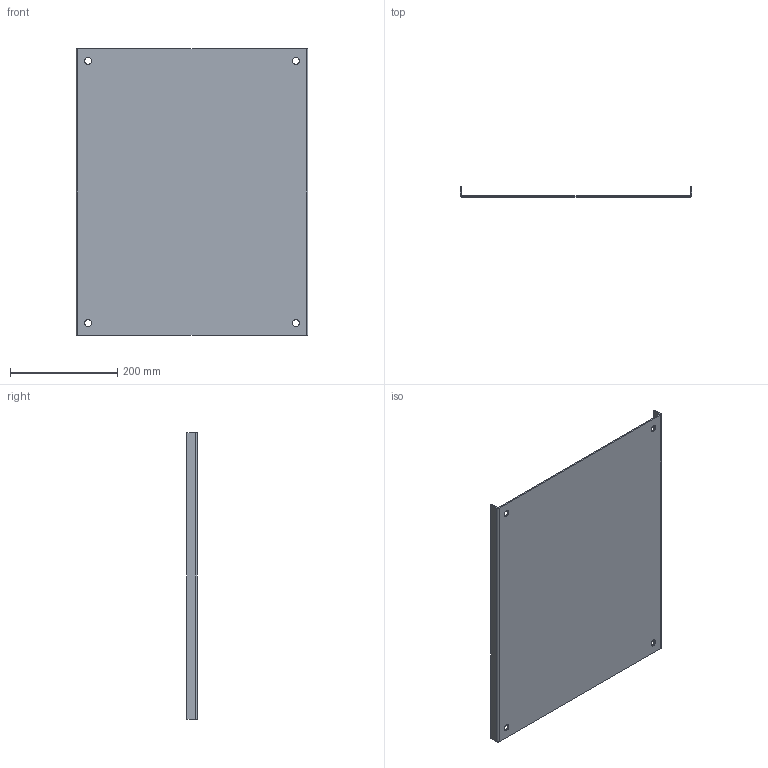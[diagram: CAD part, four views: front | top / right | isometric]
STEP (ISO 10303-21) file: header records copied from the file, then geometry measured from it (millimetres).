
FILE_DESCRIPTION(/* description */ ('Unknown'),/* implementation_level */ '2;1');
FILE_NAME(/* name */ '18P2117',/* time_stamp */ '2020-02-07T10:48:03-05:00',/* author */ ('Unknown'),/* organization */ ('Unknown'),/* preprocessor_version */ 'ST-DEVELOPER v16.7',/* originating_system */ 'DEX',/* authorisation */ $);
FILE_SCHEMA (('AUTOMOTIVE_DESIGN {1 0 10303 214 3 1 1}'));
Length unit declared in the file: millimetre
Products named in the file (2): 18P2117; COM40674
Assembly tree (1 placements, depth 2):
  18P2117
    COM40674
Bounding box: 431.8 x 19.05 x 533.4 mm (x, y, z)
Volume: 595196.5 mm3; surface area: 498520.5 mm2
Topology: 1 solids, 1 shells, 18 faces, 52 edges, 36 vertices
Faces by surface type: plane 10, cylinder 8
Full cylindrical faces by diameter (mm): 12.7 x4
Entity records: 604 total; most frequent: DIRECTION 100, CARTESIAN_POINT 96, ORIENTED_EDGE 88, EDGE_CURVE 44, AXIS2_PLACEMENT_3D 36, VERTEX_POINT 32, EDGE_LOOP 30, FACE_BOUND 30
